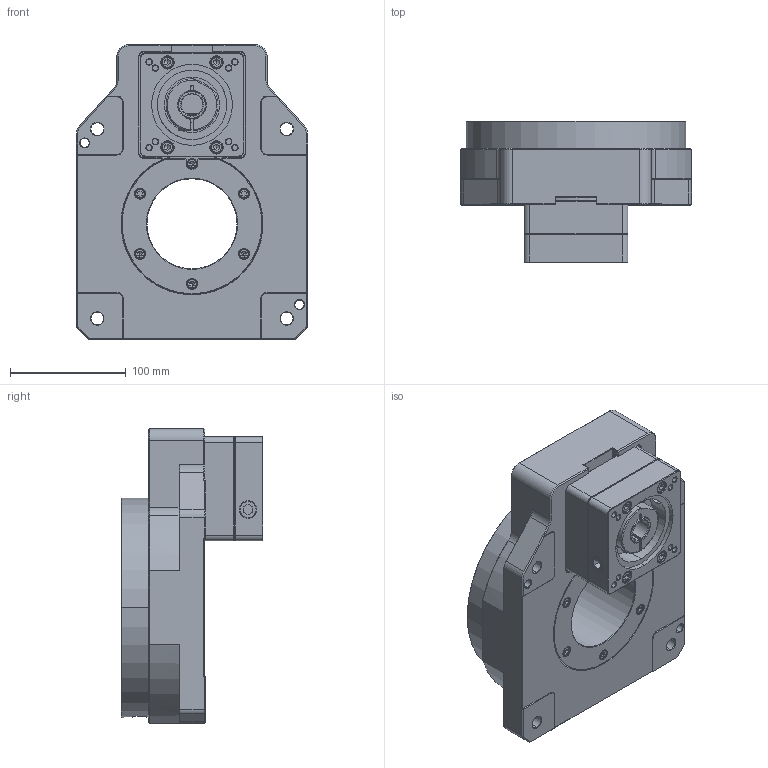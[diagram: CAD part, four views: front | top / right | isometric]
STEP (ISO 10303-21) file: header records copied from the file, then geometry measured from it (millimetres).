
FILE_DESCRIPTION (( 'STEP AP203' ), '1' );
FILE_NAME ('GSB200-10K-SV.STEP', '2017-09-15T08:40:00', ( 'Microsoft' ), ( 'Microsoft' ), 'SwSTEP 2.0', 'SolidWorks 2016', '' );
FILE_SCHEMA (( 'CONFIG_CONTROL_DESIGN' ));
Length unit declared in the file: millimetre
Products named in the file (1): GSB200-10K-SV
Bounding box: 200 x 122.5 x 255 mm (x, y, z)
Surface area: 215358.5 mm2 (no closed solid volume)
Topology: 0 solids, 27 shells, 610 faces, 1687 edges, 1062 vertices
Faces by surface type: plane 201, cylinder 182, cone 177, torus 49, bspline 1
Entity records: 19902 total; most frequent: CARTESIAN_POINT 4239, DIRECTION 3487, ORIENTED_EDGE 2909, EDGE_CURVE 1667, AXIS2_PLACEMENT_3D 1306, VERTEX_POINT 1062, LINE 875, VECTOR 875
